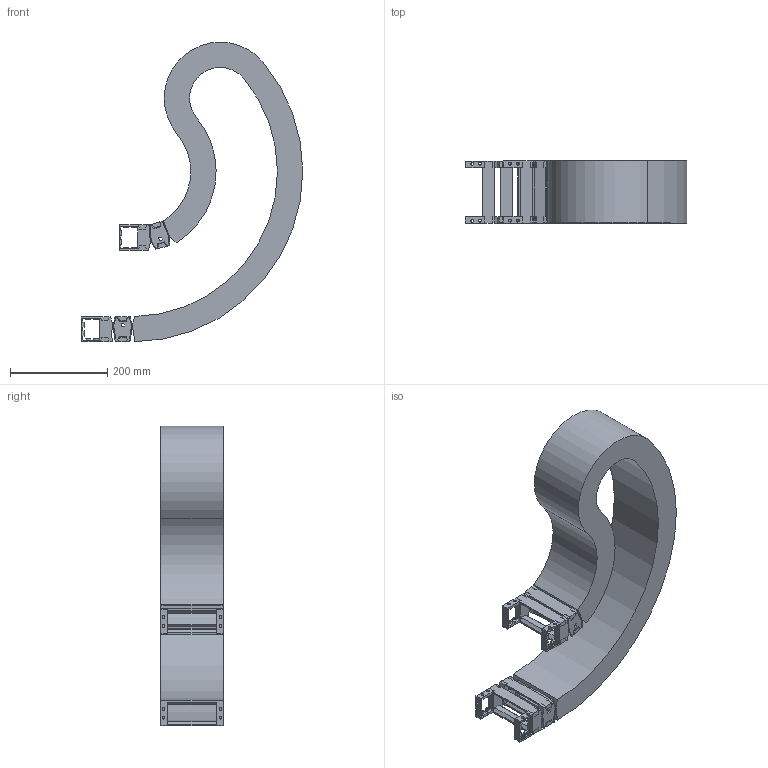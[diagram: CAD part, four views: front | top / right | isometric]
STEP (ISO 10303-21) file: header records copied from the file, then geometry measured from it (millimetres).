
FILE_DESCRIPTION( ( 'STEP AP214' ), '1' );
FILE_NAME( 'e:/temp/worker_61/temp/exporttempdir_3096_57_G1Pk3/format_0/RV040CRA12813612070230340-001001890.0647.stp', '2021-07-26T15:24:43', ( 'License CC BY-ND 4.0' ), ( 'CADENAS' ), ' ', 'PARTsolutions', ' ' );
FILE_SCHEMA( ( 'AUTOMOTIVE_DESIGN { 1 0 10303 214 1 1 1 1 }' ) );
Length unit declared in the file: millimetre
Products named in the file (4): RV040CRA12813612070230340-001001890.0647; _RV040CRA12813612070230340-001001152.16-Chain; _RV040CR-SU-40-100; _RV040CR_FB-128
Assembly tree (5 placements, depth 2):
  RV040CRA12813612070230340-001001890.0647
    _RV040CRA12813612070230340-001001152.16-Chain
    _RV040CR-SU-40-100  x2
    _RV040CR_FB-128  x2
Bounding box: 455 x 128 x 615.45 mm (x, y, z)
Volume: 3690321.9 mm3; surface area: 923550.9 mm2
Topology: 5 solids, 5 shells, 692 faces, 2020 edges, 1332 vertices
Faces by surface type: plane 524, cylinder 168
Full cylindrical faces by diameter (mm): 6 x24
Entity records: 14556 total; most frequent: CARTESIAN_POINT 2056, ORIENTED_EDGE 2036, DIRECTION 1930, EDGE_CURVE 1018, LINE 830, VECTOR 830, VERTEX_POINT 676, AXIS2_PLACEMENT_3D 550
